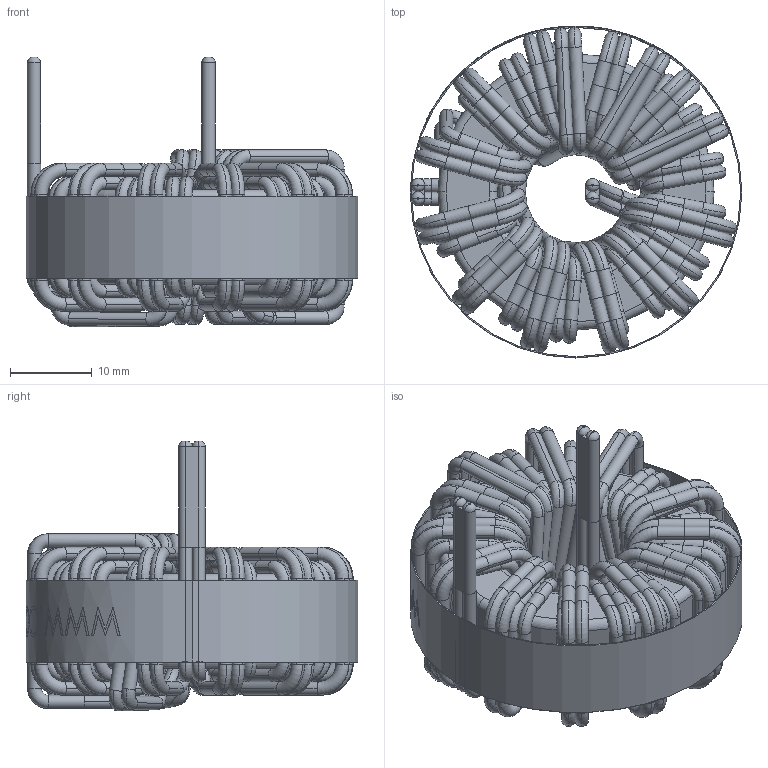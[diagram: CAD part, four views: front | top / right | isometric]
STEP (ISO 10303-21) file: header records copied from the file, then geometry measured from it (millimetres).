
FILE_DESCRIPTION (( 'STEP AP214' ), '1' );
FILE_NAME ('HF330-850M-20AH.STEP', '2021-03-18T10:28:04', ( '' ), ( '' ), 'SwSTEP 2.0', 'SolidWorks 2015', '' );
FILE_SCHEMA (( 'AUTOMOTIVE_DESIGN' ));
Length unit declared in the file: millimetre
Products named in the file (5): CORE; EPOXY; WINDING; WRAPPER; HF330-850M-20AH
Assembly tree (4 placements, depth 2):
  HF330-850M-20AH
    CORE
    WINDING
    WRAPPER
    EPOXY
Bounding box: 40.62 x 40.64 x 33.06 mm (x, y, z)
Volume: 13540.1 mm3; surface area: 21790.5 mm2
Topology: 79 solids, 79 shells, 1499 faces, 3909 edges, 2584 vertices
Faces by surface type: cylinder 679, torus 520, plane 197, bspline 103
Entity records: 65596 total; most frequent: CARTESIAN_POINT 18247, DIRECTION 9261, ORIENTED_EDGE 7818, AXIS2_PLACEMENT_3D 4283, EDGE_CURVE 3909, CIRCLE 2880, VERTEX_POINT 2584, EDGE_LOOP 1519
